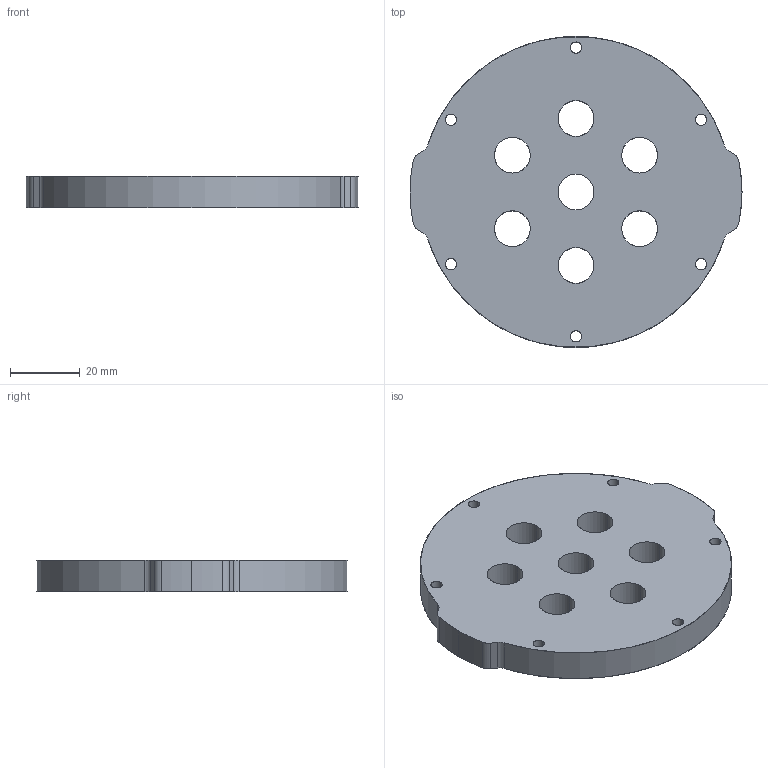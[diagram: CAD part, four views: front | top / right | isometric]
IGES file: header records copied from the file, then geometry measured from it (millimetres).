
Start section: SolidWorks IGES file using analytic representation for surfaces
Global section: file name: C:\Users\Achilles\Dropbox\BR-Engineering\PROJECTS\WTE3\MODELS\DEVELOPMENT\WTE3-P-END-CAP-7-HOLE-R1\WTE3-P-END-CAP-7-HOLE-R1.IGS; native system: SolidWorks 2016; preprocessor: SolidWorks 2016; author: Achilles; date: 181016.155136; units: millimetre
Bounding box: 94.9 x 88.9 x 9 mm (x, y, z)
Surface area: 16578.4 mm2 (no closed solid volume)
Topology: 0 solids, 0 shells, 45 faces, 1220 edges, 1220 vertices
Faces by surface type: revolution 39, bspline 6
